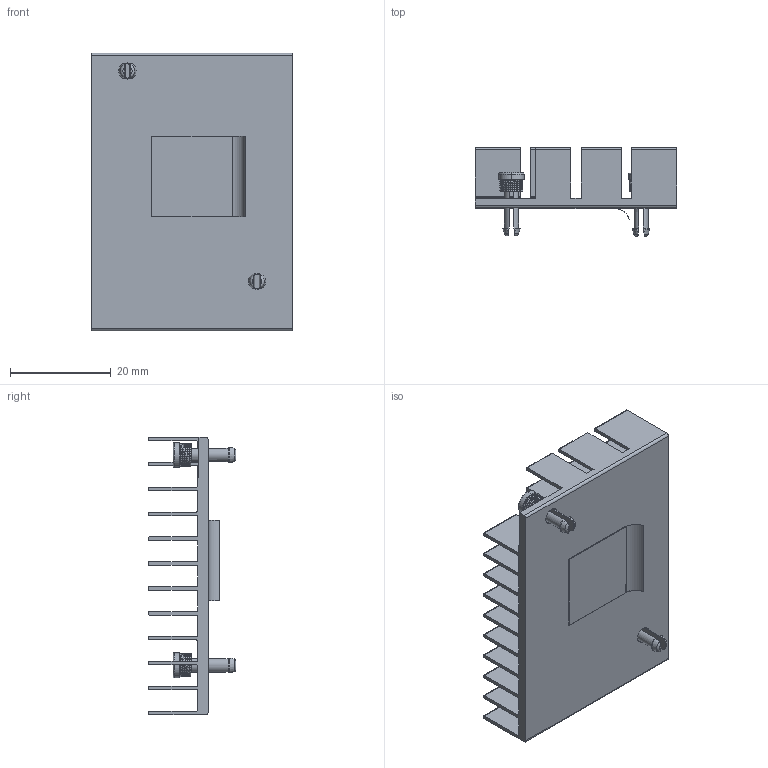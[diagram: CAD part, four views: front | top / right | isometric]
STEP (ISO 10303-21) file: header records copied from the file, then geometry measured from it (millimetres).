
FILE_DESCRIPTION (( 'STEP AP214' ), '1' );
FILE_NAME ('PCI1153_A.STEP', '2023-04-17T22:07:55', ( '' ), ( '' ), 'SwSTEP 2.0', 'SolidWorks 2020', '' );
FILE_SCHEMA (( 'AUTOMOTIVE_DESIGN' ));
Length unit declared in the file: millimetre
Products named in the file (1): PCI1153_A
Bounding box: 40 x 17.42 x 55 mm (x, y, z)
Volume: 7043.7 mm3; surface area: 13721.9 mm2
Topology: 6 solids, 6 shells, 458 faces, 1306 edges, 864 vertices
Faces by surface type: plane 238, cylinder 196, bspline 12, torus 8, cone 4
Entity records: 23240 total; most frequent: CARTESIAN_POINT 5922, ORIENTED_EDGE 2612, DIRECTION 2574, EDGE_CURVE 1306, AXIS2_PLACEMENT_3D 875, VERTEX_POINT 864, VECTOR 824, LINE 824
